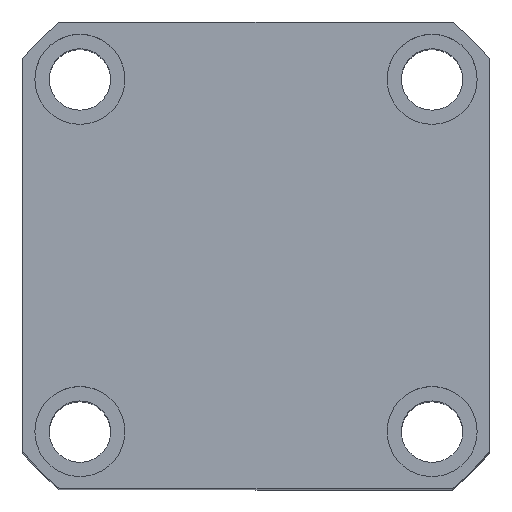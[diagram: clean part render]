
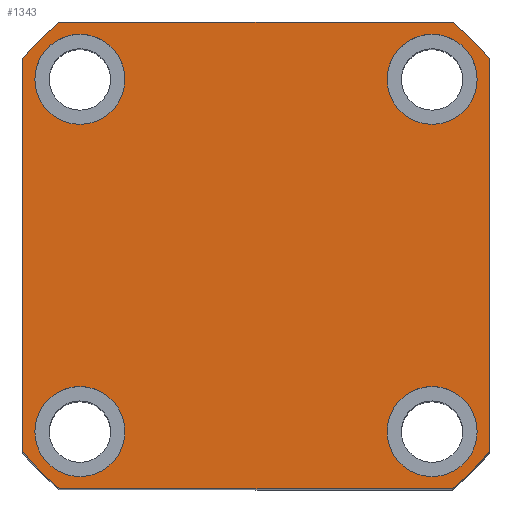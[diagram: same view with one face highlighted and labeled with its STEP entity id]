
A CAD part, top view. The second image highlights one B-rep face of the part: STEP entity #1343.
In plain terms, the highlighted planar face has unit normal (0, 0, 1) as drawn and (0, 0, -1) by its records, which use the part's own axes.
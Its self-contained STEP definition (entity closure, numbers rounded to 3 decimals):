
#1 = CARTESIAN_POINT ( 'NONE',  ( 43., 43., 0. ) ) ;
#224 = ORIENTED_EDGE ( 'NONE', *, *, #2091, .F. ) ;
#227 = DIRECTION ( 'NONE',  ( 0., 0., -1. ) ) ;
#284 = AXIS2_PLACEMENT_3D ( 'NONE', #14384, #4982, #15965 ) ;
#327 = DIRECTION ( 'NONE',  ( 0., 0., 1. ) ) ;
#430 = VERTEX_POINT ( 'NONE', #19713 ) ;
#452 = VERTEX_POINT ( 'NONE', #19006 ) ;
#469 = VERTEX_POINT ( 'NONE', #19122 ) ;
#796 = DIRECTION ( 'NONE',  ( 0., 0., -1. ) ) ;
#848 = CARTESIAN_POINT ( 'NONE',  ( 57., -47.971, 0. ) ) ;
#1232 = CARTESIAN_POINT ( 'NONE',  ( 32., 43., 0. ) ) ;
#1343 = ADVANCED_FACE ( 'NONE', ( #18318, #2028, #10402, #9917, #14114 ), #1967, .F. ) ;
#1592 = DIRECTION ( 'NONE',  ( -1., 0., 0. ) ) ;
#1689 = LINE ( 'NONE', #11352, #17980 ) ;
#1706 = AXIS2_PLACEMENT_3D ( 'NONE', #12514, #3100, #14098 ) ;
#1862 = VERTEX_POINT ( 'NONE', #17842 ) ;
#1967 = PLANE ( 'NONE',  #12500 ) ;
#2028 = FACE_BOUND ( 'NONE', #14035, .T. ) ;
#2091 = EDGE_CURVE ( 'NONE', #7392, #7624, #16565, .T. ) ;
#2166 = CARTESIAN_POINT ( 'NONE',  ( -57., -57., 0. ) ) ;
#2263 = DIRECTION ( 'NONE',  ( 1., 0., 0. ) ) ;
#2396 = EDGE_CURVE ( 'NONE', #10266, #452, #6504, .T. ) ;
#2592 = AXIS2_PLACEMENT_3D ( 'NONE', #2887, #13900, #4500 ) ;
#2720 = CARTESIAN_POINT ( 'NONE',  ( -43., 43., 0. ) ) ;
#2862 = EDGE_CURVE ( 'NONE', #469, #1862, #8814, .T. ) ;
#2887 = CARTESIAN_POINT ( 'NONE',  ( 0., 0., 0. ) ) ;
#2969 = DIRECTION ( 'NONE',  ( 0., 0., 1. ) ) ;
#3100 = DIRECTION ( 'NONE',  ( 0., 0., -1. ) ) ;
#3117 = ORIENTED_EDGE ( 'NONE', *, *, #14416, .F. ) ;
#3126 = AXIS2_PLACEMENT_3D ( 'NONE', #9690, #227, #11254 ) ;
#3225 = DIRECTION ( 'NONE',  ( 0., 0., 1. ) ) ;
#3288 = ORIENTED_EDGE ( 'NONE', *, *, #2862, .F. ) ;
#3468 = CARTESIAN_POINT ( 'NONE',  ( 43., -43., 0. ) ) ;
#3475 = EDGE_CURVE ( 'NONE', #452, #10266, #5359, .T. ) ;
#3601 = EDGE_LOOP ( 'NONE', ( #224, #5201 ) ) ;
#3611 = CARTESIAN_POINT ( 'NONE',  ( -32., -43., 0. ) ) ;
#3719 = DIRECTION ( 'NONE',  ( 0., 0., -1. ) ) ;
#4128 = CIRCLE ( 'NONE', #12511, 74.5 ) ;
#4318 = DIRECTION ( 'NONE',  ( -1., 0., 0. ) ) ;
#4418 = VERTEX_POINT ( 'NONE', #1232 ) ;
#4500 = DIRECTION ( 'NONE',  ( 1., 0., 0. ) ) ;
#4650 = VECTOR ( 'NONE', #6694, 1000. ) ;
#4921 = CARTESIAN_POINT ( 'NONE',  ( -32., 43., 0. ) ) ;
#4982 = DIRECTION ( 'NONE',  ( 0., 0., 1. ) ) ;
#5047 = DIRECTION ( 'NONE',  ( -1., 0., 0. ) ) ;
#5114 = DIRECTION ( 'NONE',  ( 0., 1., 0. ) ) ;
#5182 = EDGE_LOOP ( 'NONE', ( #7151, #20479 ) ) ;
#5201 = ORIENTED_EDGE ( 'NONE', *, *, #20268, .F. ) ;
#5208 = CIRCLE ( 'NONE', #284, 74.5 ) ;
#5359 = CIRCLE ( 'NONE', #20060, 11. ) ;
#5399 = AXIS2_PLACEMENT_3D ( 'NONE', #12794, #12720, #12924 ) ;
#6369 = CARTESIAN_POINT ( 'NONE',  ( -54., -43., 0. ) ) ;
#6438 = CIRCLE ( 'NONE', #3126, 11. ) ;
#6504 = CIRCLE ( 'NONE', #19095, 11. ) ;
#6694 = DIRECTION ( 'NONE',  ( 0., -1., 0. ) ) ;
#6726 = AXIS2_PLACEMENT_3D ( 'NONE', #3468, #14440, #5047 ) ;
#6783 = CIRCLE ( 'NONE', #19007, 11. ) ;
#6858 = VECTOR ( 'NONE', #19052, 1000. ) ;
#6859 = LINE ( 'NONE', #2166, #18943 ) ;
#6865 = VERTEX_POINT ( 'NONE', #848 ) ;
#6900 = ORIENTED_EDGE ( 'NONE', *, *, #2396, .F. ) ;
#7101 = CARTESIAN_POINT ( 'NONE',  ( 32., -43., 0. ) ) ;
#7118 = CIRCLE ( 'NONE', #2592, 74.5 ) ;
#7151 = ORIENTED_EDGE ( 'NONE', *, *, #19969, .F. ) ;
#7234 = CARTESIAN_POINT ( 'NONE',  ( 54., -43., 0. ) ) ;
#7392 = VERTEX_POINT ( 'NONE', #6369 ) ;
#7443 = ORIENTED_EDGE ( 'NONE', *, *, #15280, .F. ) ;
#7624 = VERTEX_POINT ( 'NONE', #3611 ) ;
#7805 = AXIS2_PLACEMENT_3D ( 'NONE', #1, #11034, #1592 ) ;
#7882 = ORIENTED_EDGE ( 'NONE', *, *, #3475, .F. ) ;
#8116 = CARTESIAN_POINT ( 'NONE',  ( -57., 57., 0. ) ) ;
#8262 = CIRCLE ( 'NONE', #1706, 11. ) ;
#8325 = EDGE_CURVE ( 'NONE', #18960, #4418, #19460, .T. ) ;
#8642 = ORIENTED_EDGE ( 'NONE', *, *, #12472, .F. ) ;
#8814 = LINE ( 'NONE', #8116, #4650 ) ;
#9030 = CIRCLE ( 'NONE', #6726, 11. ) ;
#9285 = CIRCLE ( 'NONE', #18183, 74.5 ) ;
#9359 = EDGE_CURVE ( 'NONE', #10041, #16469, #18939, .T. ) ;
#9544 = EDGE_LOOP ( 'NONE', ( #7882, #6900 ) ) ;
#9636 = CARTESIAN_POINT ( 'NONE',  ( -57., 57., 0. ) ) ;
#9690 = CARTESIAN_POINT ( 'NONE',  ( 43., -43., 0. ) ) ;
#9794 = CARTESIAN_POINT ( 'NONE',  ( 0., 0., 0. ) ) ;
#9917 = FACE_BOUND ( 'NONE', #9544, .T. ) ;
#10041 = VERTEX_POINT ( 'NONE', #10740 ) ;
#10244 = CARTESIAN_POINT ( 'NONE',  ( -43., 43., 0. ) ) ;
#10266 = VERTEX_POINT ( 'NONE', #4921 ) ;
#10402 = FACE_BOUND ( 'NONE', #5182, .T. ) ;
#10457 = VERTEX_POINT ( 'NONE', #7234 ) ;
#10740 = CARTESIAN_POINT ( 'NONE',  ( 47.971, 57., 0. ) ) ;
#11034 = DIRECTION ( 'NONE',  ( 0., 0., -1. ) ) ;
#11039 = CARTESIAN_POINT ( 'NONE',  ( 47.971, -57., 0. ) ) ;
#11213 = CARTESIAN_POINT ( 'NONE',  ( -47.971, 57., 0. ) ) ;
#11254 = DIRECTION ( 'NONE',  ( -1., 0., 0. ) ) ;
#11352 = CARTESIAN_POINT ( 'NONE',  ( 57., 57., 0. ) ) ;
#11362 = DIRECTION ( 'NONE',  ( 1., 0., 0. ) ) ;
#11603 = DIRECTION ( 'NONE',  ( 1., 0., 0. ) ) ;
#11847 = DIRECTION ( 'NONE',  ( -1., 0., 0. ) ) ;
#11937 = EDGE_CURVE ( 'NONE', #1862, #430, #5208, .T. ) ;
#11964 = ORIENTED_EDGE ( 'NONE', *, *, #18256, .F. ) ;
#12472 = EDGE_CURVE ( 'NONE', #16139, #10457, #6438, .T. ) ;
#12500 = AXIS2_PLACEMENT_3D ( 'NONE', #19332, #2969, #2263 ) ;
#12511 = AXIS2_PLACEMENT_3D ( 'NONE', #9794, #327, #11362 ) ;
#12514 = CARTESIAN_POINT ( 'NONE',  ( 43., 43., 0. ) ) ;
#12634 = CARTESIAN_POINT ( 'NONE',  ( 0., 0., 0. ) ) ;
#12720 = DIRECTION ( 'NONE',  ( 0., 0., -1. ) ) ;
#12794 = CARTESIAN_POINT ( 'NONE',  ( -43., -43., 0. ) ) ;
#12924 = DIRECTION ( 'NONE',  ( -1., 0., 0. ) ) ;
#13061 = VERTEX_POINT ( 'NONE', #11039 ) ;
#13125 = CARTESIAN_POINT ( 'NONE',  ( -43., -43., 0. ) ) ;
#13730 = DIRECTION ( 'NONE',  ( 0., 0., -1. ) ) ;
#13900 = DIRECTION ( 'NONE',  ( 0., 0., 1. ) ) ;
#14035 = EDGE_LOOP ( 'NONE', ( #8642, #19734 ) ) ;
#14093 = ORIENTED_EDGE ( 'NONE', *, *, #9359, .F. ) ;
#14098 = DIRECTION ( 'NONE',  ( -1., 0., 0. ) ) ;
#14114 = FACE_OUTER_BOUND ( 'NONE', #18452, .T. ) ;
#14207 = DIRECTION ( 'NONE',  ( 1., 0., 0. ) ) ;
#14384 = CARTESIAN_POINT ( 'NONE',  ( 0., 0., 0. ) ) ;
#14416 = EDGE_CURVE ( 'NONE', #6865, #18579, #1689, .T. ) ;
#14440 = DIRECTION ( 'NONE',  ( 0., 0., -1. ) ) ;
#14683 = DIRECTION ( 'NONE',  ( -1., 0., 0. ) ) ;
#14821 = EDGE_CURVE ( 'NONE', #16469, #469, #7118, .T. ) ;
#15148 = CARTESIAN_POINT ( 'NONE',  ( 54., 43., 0. ) ) ;
#15280 = EDGE_CURVE ( 'NONE', #430, #13061, #6859, .T. ) ;
#15965 = DIRECTION ( 'NONE',  ( 1., 0., 0. ) ) ;
#16120 = CARTESIAN_POINT ( 'NONE',  ( 57., 47.971, 0. ) ) ;
#16139 = VERTEX_POINT ( 'NONE', #7101 ) ;
#16469 = VERTEX_POINT ( 'NONE', #11213 ) ;
#16565 = CIRCLE ( 'NONE', #5399, 11. ) ;
#17842 = CARTESIAN_POINT ( 'NONE',  ( -57., -47.971, 0. ) ) ;
#17980 = VECTOR ( 'NONE', #5114, 1000. ) ;
#18183 = AXIS2_PLACEMENT_3D ( 'NONE', #12634, #3225, #14207 ) ;
#18256 = EDGE_CURVE ( 'NONE', #13061, #6865, #9285, .T. ) ;
#18318 = FACE_BOUND ( 'NONE', #3601, .T. ) ;
#18452 = EDGE_LOOP ( 'NONE', ( #18974, #3117, #11964, #7443, #19021, #3288, #19536, #14093 ) ) ;
#18513 = EDGE_CURVE ( 'NONE', #18579, #10041, #4128, .T. ) ;
#18579 = VERTEX_POINT ( 'NONE', #16120 ) ;
#18939 = LINE ( 'NONE', #9636, #6858 ) ;
#18943 = VECTOR ( 'NONE', #11603, 1000. ) ;
#18960 = VERTEX_POINT ( 'NONE', #15148 ) ;
#18974 = ORIENTED_EDGE ( 'NONE', *, *, #18513, .F. ) ;
#19006 = CARTESIAN_POINT ( 'NONE',  ( -54., 43., 0. ) ) ;
#19007 = AXIS2_PLACEMENT_3D ( 'NONE', #13125, #3719, #14683 ) ;
#19021 = ORIENTED_EDGE ( 'NONE', *, *, #11937, .F. ) ;
#19052 = DIRECTION ( 'NONE',  ( -1., 0., 0. ) ) ;
#19095 = AXIS2_PLACEMENT_3D ( 'NONE', #2720, #13730, #4318 ) ;
#19122 = CARTESIAN_POINT ( 'NONE',  ( -57., 47.971, 0. ) ) ;
#19318 = EDGE_CURVE ( 'NONE', #10457, #16139, #9030, .T. ) ;
#19332 = CARTESIAN_POINT ( 'NONE',  ( 0., 0., 0. ) ) ;
#19460 = CIRCLE ( 'NONE', #7805, 11. ) ;
#19536 = ORIENTED_EDGE ( 'NONE', *, *, #14821, .F. ) ;
#19713 = CARTESIAN_POINT ( 'NONE',  ( -47.971, -57., 0. ) ) ;
#19734 = ORIENTED_EDGE ( 'NONE', *, *, #19318, .F. ) ;
#19969 = EDGE_CURVE ( 'NONE', #4418, #18960, #8262, .T. ) ;
#20060 = AXIS2_PLACEMENT_3D ( 'NONE', #10244, #796, #11847 ) ;
#20268 = EDGE_CURVE ( 'NONE', #7624, #7392, #6783, .T. ) ;
#20479 = ORIENTED_EDGE ( 'NONE', *, *, #8325, .F. ) ;
